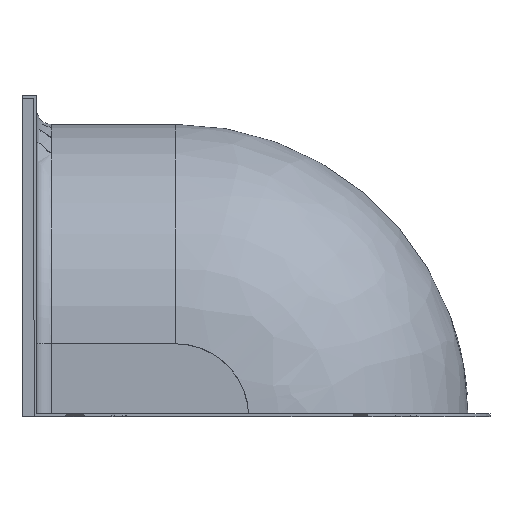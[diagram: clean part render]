
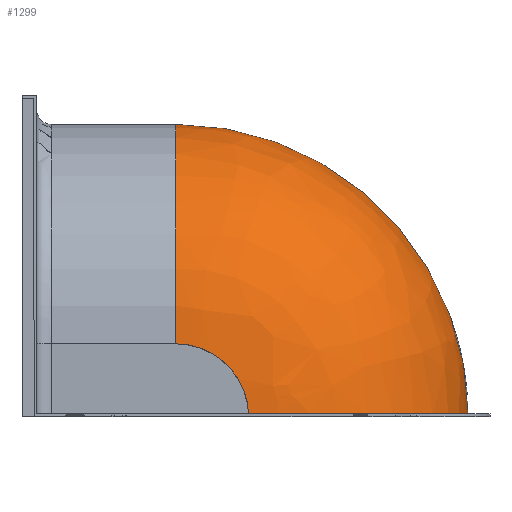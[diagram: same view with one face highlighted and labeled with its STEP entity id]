
A CAD part, left-side view. The second image highlights one B-rep face of the part: STEP entity #1299.
In plain terms, the highlighted free-form (B-spline) face has degree [2, 2] with [3, 3] control points.
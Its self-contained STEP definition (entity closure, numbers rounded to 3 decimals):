
#17=(
BOUNDED_SURFACE()
B_SPLINE_SURFACE(2,2,((#2242,#2243,#2244),(#2245,#2246,#2247),(#2248,#2249,
#2250)),.UNSPECIFIED.,.F.,.F.,.F.)
B_SPLINE_SURFACE_WITH_KNOTS((3,3),(3,3),(0.,1.571),
(-1.561,0.),.UNSPECIFIED.)
GEOMETRIC_REPRESENTATION_ITEM()
RATIONAL_B_SPLINE_SURFACE(((1.,0.711,1.),(0.707,
0.502,0.707),(1.,0.711,1.)))
REPRESENTATION_ITEM('')
SURFACE()
);
#103=CIRCLE('',#1410,100.);
#104=CIRCLE('',#1411,400.);
#105=CIRCLE('',#1412,300.);
#415=FACE_OUTER_BOUND('',#490,.T.);
#490=EDGE_LOOP('',(#1032,#1033,#1034,#1035));
#543=B_SPLINE_CURVE_WITH_KNOTS('',3,(#2252,#2253,#2254,#2255,#2256,#2257,
#2258,#2259,#2260,#2261,#2262,#2263,#2264,#2265,#2266,#2267,#2268,#2269,
#2270,#2271,#2272,#2273,#2274,#2275,#2276,#2277,#2278,#2279,#2280,#2281,
#2282,#2283,#2284,#2285),.UNSPECIFIED.,.F.,.F.,(4,2,2,2,2,2,2,2,2,2,2,2,
2,2,2,2,4),(53.976,56.752,59.529,62.306,
65.082,67.859,70.636,73.413,76.189,
78.966,81.743,84.52,87.297,90.075,
92.853,95.632,98.41),.UNSPECIFIED.);
#632=VERTEX_POINT('',#2237);
#633=VERTEX_POINT('',#2239);
#634=VERTEX_POINT('',#2251);
#635=VERTEX_POINT('',#2286);
#784=EDGE_CURVE('',#633,#632,#103,.T.);
#786=EDGE_CURVE('',#634,#632,#543,.T.);
#787=EDGE_CURVE('',#634,#635,#104,.T.);
#788=EDGE_CURVE('',#635,#633,#105,.T.);
#1032=ORIENTED_EDGE('',*,*,#786,.F.);
#1033=ORIENTED_EDGE('',*,*,#787,.T.);
#1034=ORIENTED_EDGE('',*,*,#788,.T.);
#1035=ORIENTED_EDGE('',*,*,#784,.T.);
#1299=ADVANCED_FACE('',(#415),#17,.F.);
#1410=AXIS2_PLACEMENT_3D('',#2240,#1667,#1668);
#1411=AXIS2_PLACEMENT_3D('',#2287,#1670,#1671);
#1412=AXIS2_PLACEMENT_3D('',#2288,#1672,#1673);
#1667=DIRECTION('center_axis',(1.,0.,0.));
#1668=DIRECTION('ref_axis',(0.,-0.707,0.707));
#1670=DIRECTION('center_axis',(-1.,0.,0.));
#1671=DIRECTION('ref_axis',(0.,-0.707,0.707));
#1672=DIRECTION('center_axis',(0.,-1.,0.));
#1673=DIRECTION('ref_axis',(0.,0.,1.));
#2237=CARTESIAN_POINT('',(-510.,-309.92,4.));
#2239=CARTESIAN_POINT('',(-510.,-210.,100.));
#2240=CARTESIAN_POINT('Origin',(-510.,-210.,0.));
#2242=CARTESIAN_POINT('Ctrl Pts',(-210.,-609.98,4.));
#2243=CARTESIAN_POINT('Ctrl Pts',(-210.,-606.02,400.));
#2244=CARTESIAN_POINT('Ctrl Pts',(-210.,-210.,400.));
#2245=CARTESIAN_POINT('Ctrl Pts',(-510.,-609.98,4.));
#2246=CARTESIAN_POINT('Ctrl Pts',(-510.,-606.02,400.));
#2247=CARTESIAN_POINT('Ctrl Pts',(-510.,-210.,400.));
#2248=CARTESIAN_POINT('Ctrl Pts',(-510.,-309.995,1.));
#2249=CARTESIAN_POINT('Ctrl Pts',(-510.,-309.005,100.));
#2250=CARTESIAN_POINT('Ctrl Pts',(-510.,-210.,100.));
#2251=CARTESIAN_POINT('',(-210.,-609.98,4.));
#2252=CARTESIAN_POINT('Ctrl Pts',(-210.,-609.98,4.));
#2253=CARTESIAN_POINT('Ctrl Pts',(-219.256,-609.98,4.));
#2254=CARTESIAN_POINT('Ctrl Pts',(-228.94,-609.545,4.));
#2255=CARTESIAN_POINT('Ctrl Pts',(-248.625,-607.647,4.));
#2256=CARTESIAN_POINT('Ctrl Pts',(-258.626,-606.185,4.));
#2257=CARTESIAN_POINT('Ctrl Pts',(-278.422,-602.247,4.));
#2258=CARTESIAN_POINT('Ctrl Pts',(-288.222,-599.771,4.));
#2259=CARTESIAN_POINT('Ctrl Pts',(-307.135,-593.991,4.));
#2260=CARTESIAN_POINT('Ctrl Pts',(-316.248,-590.687,4.));
#2261=CARTESIAN_POINT('Ctrl Pts',(-333.351,-583.603,4.));
#2262=CARTESIAN_POINT('Ctrl Pts',(-342.131,-579.495,4.));
#2263=CARTESIAN_POINT('Ctrl Pts',(-359.592,-570.208,4.));
#2264=CARTESIAN_POINT('Ctrl Pts',(-368.272,-565.03,4.));
#2265=CARTESIAN_POINT('Ctrl Pts',(-385.056,-553.816,4.));
#2266=CARTESIAN_POINT('Ctrl Pts',(-393.162,-547.778,4.));
#2267=CARTESIAN_POINT('Ctrl Pts',(-408.423,-535.2,4.));
#2268=CARTESIAN_POINT('Ctrl Pts',(-415.579,-528.66,4.));
#2269=CARTESIAN_POINT('Ctrl Pts',(-428.669,-515.569,4.));
#2270=CARTESIAN_POINT('Ctrl Pts',(-435.209,-508.413,4.));
#2271=CARTESIAN_POINT('Ctrl Pts',(-447.788,-493.151,4.));
#2272=CARTESIAN_POINT('Ctrl Pts',(-453.827,-485.044,4.));
#2273=CARTESIAN_POINT('Ctrl Pts',(-465.041,-468.259,4.));
#2274=CARTESIAN_POINT('Ctrl Pts',(-470.22,-459.578,4.));
#2275=CARTESIAN_POINT('Ctrl Pts',(-479.507,-442.116,4.));
#2276=CARTESIAN_POINT('Ctrl Pts',(-483.616,-433.334,4.));
#2277=CARTESIAN_POINT('Ctrl Pts',(-490.702,-416.227,4.));
#2278=CARTESIAN_POINT('Ctrl Pts',(-494.007,-407.108,4.));
#2279=CARTESIAN_POINT('Ctrl Pts',(-499.789,-388.185,4.));
#2280=CARTESIAN_POINT('Ctrl Pts',(-502.266,-378.38,4.));
#2281=CARTESIAN_POINT('Ctrl Pts',(-506.205,-358.573,4.));
#2282=CARTESIAN_POINT('Ctrl Pts',(-507.668,-348.566,4.));
#2283=CARTESIAN_POINT('Ctrl Pts',(-509.565,-328.87,4.));
#2284=CARTESIAN_POINT('Ctrl Pts',(-510.,-319.181,4.));
#2285=CARTESIAN_POINT('Ctrl Pts',(-510.,-309.92,4.));
#2286=CARTESIAN_POINT('',(-210.,-210.,400.));
#2287=CARTESIAN_POINT('Origin',(-210.,-210.,0.));
#2288=CARTESIAN_POINT('Origin',(-210.,-210.,100.));
